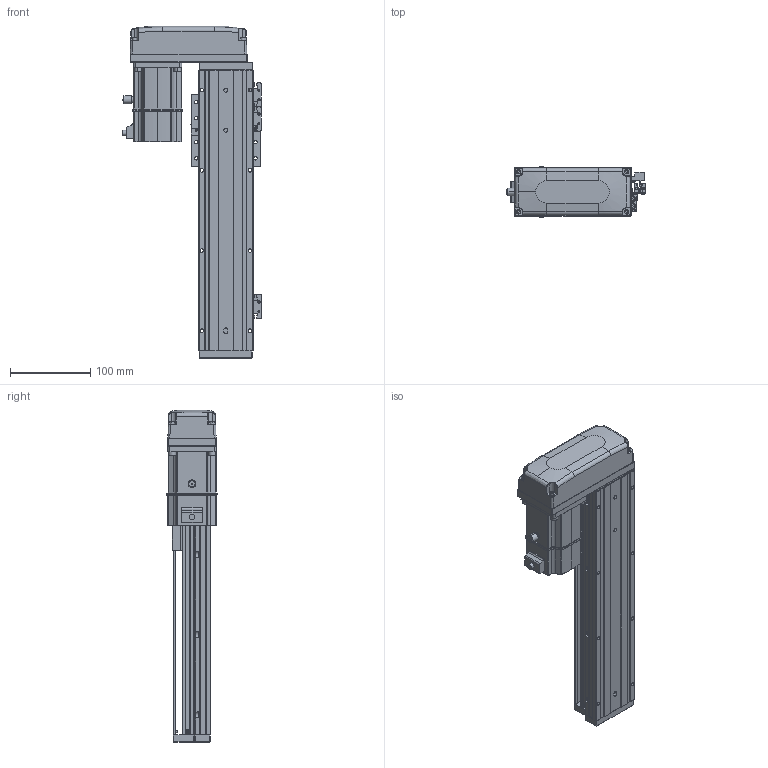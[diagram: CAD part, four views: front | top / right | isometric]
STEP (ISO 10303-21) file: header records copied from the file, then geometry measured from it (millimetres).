
FILE_DESCRIPTION (( 'STEP AP203' ), '1' );
FILE_NAME ('KTHAL60-200-BR-M20-C4L.step', '2022-12-16T02:14:38', ( '微软用户' ), ( '微软中国' ), 'SwSTEP 2.0', 'SolidWorks 2020', '' );
FILE_SCHEMA (( 'CONFIG_CONTROL_DESIGN' ));
Length unit declared in the file: millimetre
Products named in the file (17): _X2_4E0983F1_X0_200W_1; KTHA60-001_350; CTHA60-017; CTHA60-015-4_CTHA60-015-4; KTHLA60-002; CTHA60-021; GTH80-026; KTHA60-004; GBT 70.1-M4×16; KTHAL60-200-BR-M20-C4L; KTHA60-005; GBT77-2000M3-3; GB¨uT 70.2-M3¡Á5_M3¡Á6; GBT 70.1-M3℅6; GBT 70.3-M3℅6; CTHA60-016; EE_SX911P_R
Assembly tree (45 placements, depth 2):
  KTHAL60-200-BR-M20-C4L
    KTHA60-001_350
    KTHLA60-002
    KTHA60-004
    KTHA60-005
    GB¨uT 70.2-M3¡Á5_M3¡Á6  x5
    GBT 70.3-M3℅6  x4
    EE_SX911P_R  x3
    CTHA60-017  x3
    CTHA60-021  x2
    GBT 70.1-M4×16  x8
    GBT77-2000M3-3  x6
    GBT 70.1-M3℅6  x6
    CTHA60-016
    _X2_4E0983F1_X0_200W_1
    CTHA60-015-4_CTHA60-015-4
    GTH80-026
Bounding box: 173.02 x 62.42 x 414 mm (x, y, z)
Volume: 1432183.5 mm3; surface area: 289093.1 mm2
Topology: 48 solids, 48 shells, 2291 faces, 5436 edges, 3337 vertices
Faces by surface type: plane 1223, cylinder 605, cone 264, bspline 103, torus 82, sphere 14
Entity records: 43955 total; most frequent: CARTESIAN_POINT 9930, DIRECTION 6591, ORIENTED_EDGE 6496, EDGE_CURVE 3248, AXIS2_PLACEMENT_3D 2282, VECTOR 2027, LINE 2027, VERTEX_POINT 2021
